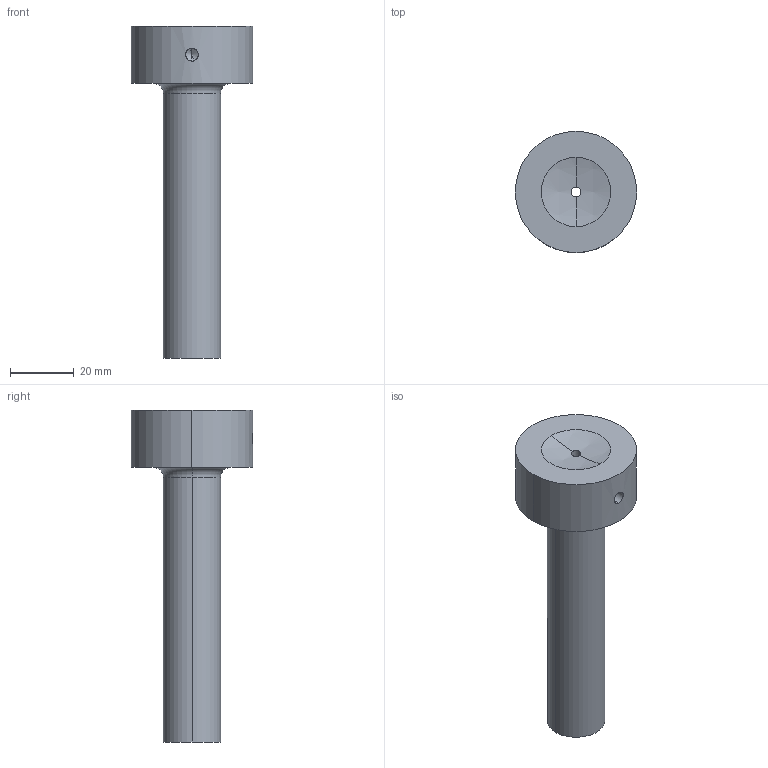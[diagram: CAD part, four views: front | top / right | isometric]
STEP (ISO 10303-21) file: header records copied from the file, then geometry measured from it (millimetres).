
FILE_DESCRIPTION (( 'STEP AP214' ), '1' );
FILE_NAME ('IMC-I2-18x86-3-1.STEP', '2023-01-12T14:10:53', ( '' ), ( '' ), 'SwSTEP 2.0', 'SolidWorks 2019', '' );
FILE_SCHEMA (( 'AUTOMOTIVE_DESIGN' ));
Length unit declared in the file: millimetre
Products named in the file (1): IMC-I2-18x86-3-1
Bounding box: 38 x 38 x 104 mm (x, y, z)
Volume: 40003 mm3; surface area: 10890.5 mm2
Topology: 1 solids, 1 shells, 21 faces, 48 edges, 28 vertices
Faces by surface type: cylinder 8, cone 6, plane 3, sphere 2, torus 2
Entity records: 662 total; most frequent: CARTESIAN_POINT 148, DIRECTION 114, ORIENTED_EDGE 88, AXIS2_PLACEMENT_3D 50, EDGE_CURVE 44, CIRCLE 28, VERTEX_POINT 28, EDGE_LOOP 26
